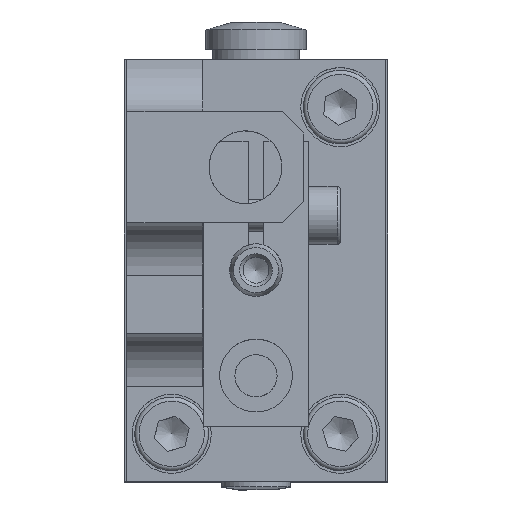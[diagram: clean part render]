
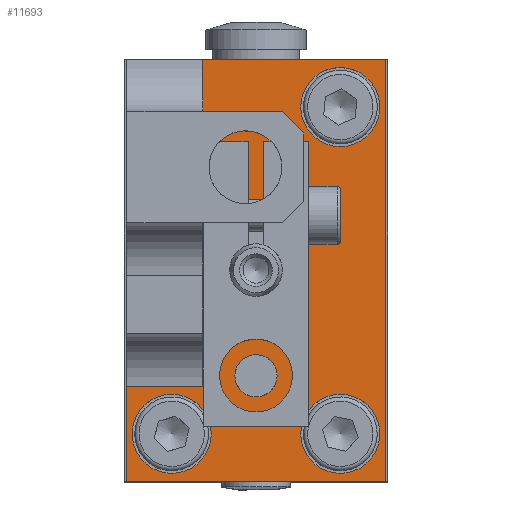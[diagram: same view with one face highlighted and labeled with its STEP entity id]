
A CAD part, top view. The second image highlights one B-rep face of the part: STEP entity #11693.
In plain terms, the highlighted planar face has unit normal (0, 0, 1).
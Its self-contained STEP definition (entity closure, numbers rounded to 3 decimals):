
#356=FACE_BOUND('',#1781,.T.);
#357=FACE_BOUND('',#1782,.T.);
#358=FACE_BOUND('',#1783,.T.);
#359=FACE_BOUND('',#1784,.T.);
#360=FACE_BOUND('',#1785,.T.);
#604=PLANE('',#12708);
#1075=FACE_OUTER_BOUND('',#1780,.T.);
#1780=EDGE_LOOP('',(#8944,#8945,#8946,#8947,#8948,#8949));
#1781=EDGE_LOOP('',(#8950,#8951));
#1782=EDGE_LOOP('',(#8952,#8953));
#1783=EDGE_LOOP('',(#8954,#8955));
#1784=EDGE_LOOP('',(#8956,#8957));
#1785=EDGE_LOOP('',(#8958,#8959));
#2632=LINE('',#18941,#3428);
#2659=LINE('',#19067,#3455);
#2660=LINE('',#19069,#3456);
#2661=LINE('',#19071,#3457);
#2662=LINE('',#19073,#3458);
#2663=LINE('',#19074,#3459);
#3428=VECTOR('',#15048,10.);
#3455=VECTOR('',#15189,10.);
#3456=VECTOR('',#15190,10.);
#3457=VECTOR('',#15191,10.);
#3458=VECTOR('',#15192,10.);
#3459=VECTOR('',#15193,10.);
#4064=CIRCLE('',#12663,4.5);
#4065=CIRCLE('',#12664,4.5);
#4066=CIRCLE('',#12666,2.);
#4067=CIRCLE('',#12667,2.);
#4073=CIRCLE('',#12676,3.75);
#4074=CIRCLE('',#12677,3.75);
#4079=CIRCLE('',#12685,3.75);
#4080=CIRCLE('',#12686,3.75);
#4085=CIRCLE('',#12694,3.75);
#4086=CIRCLE('',#12695,3.75);
#5043=VERTEX_POINT('',#18938);
#5044=VERTEX_POINT('',#18940);
#5056=VERTEX_POINT('',#18975);
#5057=VERTEX_POINT('',#18976);
#5058=VERTEX_POINT('',#18981);
#5059=VERTEX_POINT('',#18982);
#5065=VERTEX_POINT('',#18999);
#5066=VERTEX_POINT('',#19000);
#5071=VERTEX_POINT('',#19016);
#5072=VERTEX_POINT('',#19017);
#5077=VERTEX_POINT('',#19033);
#5078=VERTEX_POINT('',#19034);
#5086=VERTEX_POINT('',#19066);
#5087=VERTEX_POINT('',#19068);
#5088=VERTEX_POINT('',#19070);
#5089=VERTEX_POINT('',#19072);
#6431=EDGE_CURVE('',#5044,#5043,#2632,.T.);
#6448=EDGE_CURVE('',#5056,#5057,#4064,.T.);
#6449=EDGE_CURVE('',#5057,#5056,#4065,.T.);
#6451=EDGE_CURVE('',#5058,#5059,#4066,.T.);
#6452=EDGE_CURVE('',#5059,#5058,#4067,.T.);
#6459=EDGE_CURVE('',#5065,#5066,#4073,.T.);
#6460=EDGE_CURVE('',#5066,#5065,#4074,.T.);
#6467=EDGE_CURVE('',#5071,#5072,#4079,.T.);
#6468=EDGE_CURVE('',#5072,#5071,#4080,.T.);
#6475=EDGE_CURVE('',#5077,#5078,#4085,.T.);
#6476=EDGE_CURVE('',#5078,#5077,#4086,.T.);
#6491=EDGE_CURVE('',#5086,#5043,#2659,.T.);
#6492=EDGE_CURVE('',#5087,#5086,#2660,.T.);
#6493=EDGE_CURVE('',#5088,#5087,#2661,.T.);
#6494=EDGE_CURVE('',#5089,#5088,#2662,.T.);
#6495=EDGE_CURVE('',#5044,#5089,#2663,.T.);
#8944=ORIENTED_EDGE('',*,*,#6431,.T.);
#8945=ORIENTED_EDGE('',*,*,#6491,.F.);
#8946=ORIENTED_EDGE('',*,*,#6492,.F.);
#8947=ORIENTED_EDGE('',*,*,#6493,.F.);
#8948=ORIENTED_EDGE('',*,*,#6494,.F.);
#8949=ORIENTED_EDGE('',*,*,#6495,.F.);
#8950=ORIENTED_EDGE('',*,*,#6448,.T.);
#8951=ORIENTED_EDGE('',*,*,#6449,.T.);
#8952=ORIENTED_EDGE('',*,*,#6451,.T.);
#8953=ORIENTED_EDGE('',*,*,#6452,.T.);
#8954=ORIENTED_EDGE('',*,*,#6459,.T.);
#8955=ORIENTED_EDGE('',*,*,#6460,.T.);
#8956=ORIENTED_EDGE('',*,*,#6467,.T.);
#8957=ORIENTED_EDGE('',*,*,#6468,.T.);
#8958=ORIENTED_EDGE('',*,*,#6475,.T.);
#8959=ORIENTED_EDGE('',*,*,#6476,.T.);
#11693=ADVANCED_FACE('',(#1075,#356,#357,#358,#359,#360),#604,.F.);
#12663=AXIS2_PLACEMENT_3D('',#18977,#15082,#15083);
#12664=AXIS2_PLACEMENT_3D('',#18978,#15084,#15085);
#12666=AXIS2_PLACEMENT_3D('',#18983,#15089,#15090);
#12667=AXIS2_PLACEMENT_3D('',#18984,#15091,#15092);
#12676=AXIS2_PLACEMENT_3D('',#19001,#15110,#15111);
#12677=AXIS2_PLACEMENT_3D('',#19002,#15112,#15113);
#12685=AXIS2_PLACEMENT_3D('',#19018,#15130,#15131);
#12686=AXIS2_PLACEMENT_3D('',#19019,#15132,#15133);
#12694=AXIS2_PLACEMENT_3D('',#19035,#15150,#15151);
#12695=AXIS2_PLACEMENT_3D('',#19036,#15152,#15153);
#12708=AXIS2_PLACEMENT_3D('',#19065,#15187,#15188);
#15048=DIRECTION('',(0.,-1.,0.));
#15082=DIRECTION('center_axis',(0.,0.,
-1.));
#15083=DIRECTION('ref_axis',(0.,1.,0.));
#15084=DIRECTION('center_axis',(0.,0.,
-1.));
#15085=DIRECTION('ref_axis',(0.,1.,0.));
#15089=DIRECTION('center_axis',(0.,0.,
-1.));
#15090=DIRECTION('ref_axis',(0.,1.,0.));
#15091=DIRECTION('center_axis',(0.,0.,
-1.));
#15092=DIRECTION('ref_axis',(0.,1.,0.));
#15110=DIRECTION('center_axis',(0.,0.,
-1.));
#15111=DIRECTION('ref_axis',(0.,1.,0.));
#15112=DIRECTION('center_axis',(0.,0.,
-1.));
#15113=DIRECTION('ref_axis',(0.,1.,0.));
#15130=DIRECTION('center_axis',(0.,0.,
-1.));
#15131=DIRECTION('ref_axis',(0.,1.,0.));
#15132=DIRECTION('center_axis',(0.,0.,
-1.));
#15133=DIRECTION('ref_axis',(0.,1.,0.));
#15150=DIRECTION('center_axis',(0.,0.,
-1.));
#15151=DIRECTION('ref_axis',(0.,1.,0.));
#15152=DIRECTION('center_axis',(0.,0.,
-1.));
#15153=DIRECTION('ref_axis',(0.,1.,0.));
#15187=DIRECTION('center_axis',(0.,0.,
-1.));
#15188=DIRECTION('ref_axis',(0.,-1.,0.));
#15189=DIRECTION('',(1.,0.,0.));
#15190=DIRECTION('',(0.,1.,0.));
#15191=DIRECTION('',(-1.,0.,0.));
#15192=DIRECTION('',(0.,-1.,0.));
#15193=DIRECTION('',(1.,0.,0.));
#18938=CARTESIAN_POINT('',(-5.03,-11.,83.));
#18940=CARTESIAN_POINT('',(-5.03,20.,83.));
#18941=CARTESIAN_POINT('',(-5.03,20.,83.));
#18975=CARTESIAN_POINT('',(0.,4.5,83.));
#18976=CARTESIAN_POINT('',(0.,-4.5,83.));
#18977=CARTESIAN_POINT('Origin',(0.,0.,
83.));
#18978=CARTESIAN_POINT('Origin',(0.,0.,
83.));
#18981=CARTESIAN_POINT('',(0.,-8.,83.));
#18982=CARTESIAN_POINT('',(0.,-12.,83.));
#18983=CARTESIAN_POINT('Origin',(0.,-10.,
83.));
#18984=CARTESIAN_POINT('Origin',(0.,-10.,
83.));
#18999=CARTESIAN_POINT('',(8.,-11.75,83.));
#19000=CARTESIAN_POINT('',(8.,-19.25,83.));
#19001=CARTESIAN_POINT('Origin',(8.,-15.5,83.));
#19002=CARTESIAN_POINT('Origin',(8.,-15.5,83.));
#19016=CARTESIAN_POINT('',(-8.,-11.75,83.));
#19017=CARTESIAN_POINT('',(-8.,-19.25,83.));
#19018=CARTESIAN_POINT('Origin',(-8.,-15.5,83.));
#19019=CARTESIAN_POINT('Origin',(-8.,-15.5,83.));
#19033=CARTESIAN_POINT('',(8.,19.25,83.));
#19034=CARTESIAN_POINT('',(8.,11.75,83.));
#19035=CARTESIAN_POINT('Origin',(8.,15.5,83.));
#19036=CARTESIAN_POINT('Origin',(8.,15.5,83.));
#19065=CARTESIAN_POINT('Origin',(12.25,20.,83.));
#19066=CARTESIAN_POINT('',(-12.25,-11.,83.));
#19067=CARTESIAN_POINT('',(3.61,-11.,83.));
#19068=CARTESIAN_POINT('',(-12.25,-20.,83.));
#19069=CARTESIAN_POINT('',(-12.25,0.774,83.));
#19070=CARTESIAN_POINT('',(12.25,-20.,83.));
#19071=CARTESIAN_POINT('',(6.503,-20.,83.));
#19072=CARTESIAN_POINT('',(12.25,20.,83.));
#19073=CARTESIAN_POINT('',(12.25,10.,83.));
#19074=CARTESIAN_POINT('',(6.503,20.,83.));
